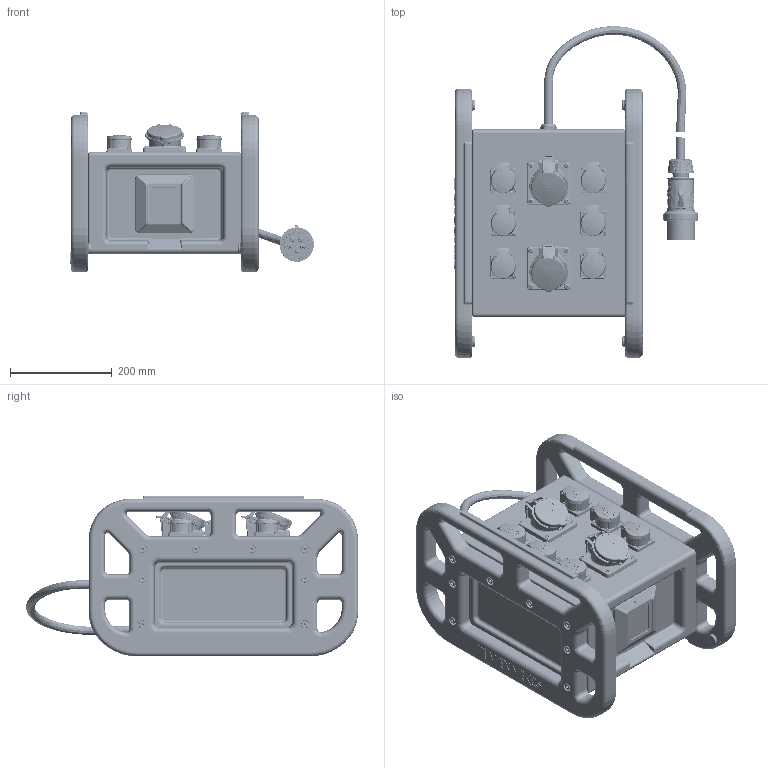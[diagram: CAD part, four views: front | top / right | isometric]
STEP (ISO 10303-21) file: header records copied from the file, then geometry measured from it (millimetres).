
FILE_DESCRIPTION((''),'2;1');
FILE_NAME('2514005-0_ASM_1_ASM','2026-03-20T12:03:50',('kremer'),('MENNEKES'),'CREO PARAMETRIC BY PTC INC, 2024153','CREO PARAMETRIC BY PTC INC, 2024153','');
FILE_SCHEMA(('AUTOMOTIVE_DESIGN { 1 0 10303 214 1 1 1 1 }'));
Products named in the file (24): EVERBOXGRIP_SW_SCHWARZ_AF0_1_1; EVERBOXGRIP_SW_SCHWARZ_AF0_1_2; EVERBOXGRIP_SW_SCHWARZ_AF0_1_3; EVERBOXGRIP_SW_SCHWARZ_AF0_1_4; EVERBOXGRIP_SW_SCHWARZ_AF0_1_5; EVERBOXGRIP_SW_SCHWARZ_AF0_1_ASM; FI_4POL_4TE_1_1; FI_4POL_4TE_1_2; FI_4POL_4TE_1_3; FI_4POL_4TE_1_4; FI_4POL_4TE_1_ASM; LS_1POL_1TE_1; EINBAURAHMEN_IOT_1; ZAEHLER_4TE_WAAGERECHT_1; REG_1TE_BLIND_1; FG11_12TE_GRAU_1; KABELVERSCHR_M25_SCHWARZ_1; FL85X85_CEE_16_5_44_20_ROT_1; 4LOCH_SCHUKO_54_BLAU_1; KABEL_EBG_SCHWARZ_1_1; KABEL_EBG_SCHWARZ_1_2; KABEL_EBG_SCHWARZ_1_ASM; 13522_1; 2514005-0_ASM_1_ASM
Assembly tree (31 placements, depth 3):
  2514005-0_ASM_1_ASM
    EVERBOXGRIP_SW_SCHWARZ_AF0_1_ASM
      EVERBOXGRIP_SW_SCHWARZ_AF0_1_1
      EVERBOXGRIP_SW_SCHWARZ_AF0_1_2
      EVERBOXGRIP_SW_SCHWARZ_AF0_1_3
      EVERBOXGRIP_SW_SCHWARZ_AF0_1_4
      EVERBOXGRIP_SW_SCHWARZ_AF0_1_5
    FI_4POL_4TE_1_ASM
      FI_4POL_4TE_1_1
      FI_4POL_4TE_1_2
      FI_4POL_4TE_1_3
      FI_4POL_4TE_1_4
    LS_1POL_1TE_1  x3
    EINBAURAHMEN_IOT_1
    ZAEHLER_4TE_WAAGERECHT_1
    REG_1TE_BLIND_1
    FG11_12TE_GRAU_1
    KABELVERSCHR_M25_SCHWARZ_1
    FL85X85_CEE_16_5_44_20_ROT_1  x2
    4LOCH_SCHUKO_54_BLAU_1  x6
    KABEL_EBG_SCHWARZ_1_ASM
      KABEL_EBG_SCHWARZ_1_1
      KABEL_EBG_SCHWARZ_1_2
    13522_1
Bounding box: 479.88 x 653.5 x 316.87 mm (x, y, z)
Volume: 29002544.4 mm3; surface area: 1616934 mm2
Topology: 23 solids, 24 shells, 17653 faces, 48415 edges, 31069 vertices
Faces by surface type: plane 7915, cylinder 4447, bspline 2059, torus 1715, cone 907, sphere 334, extrusion 276
Entity records: 626937 total; most frequent: CARTESIAN_POINT 178173, ORIENTED_EDGE 59772, DIRECTION 49586, PRESENTATION_STYLE_ASSIGNMENT 39435, STYLED_ITEM 30124, CURVE_STYLE 30109, EDGE_CURVE 29886, VERTEX_POINT 19136
